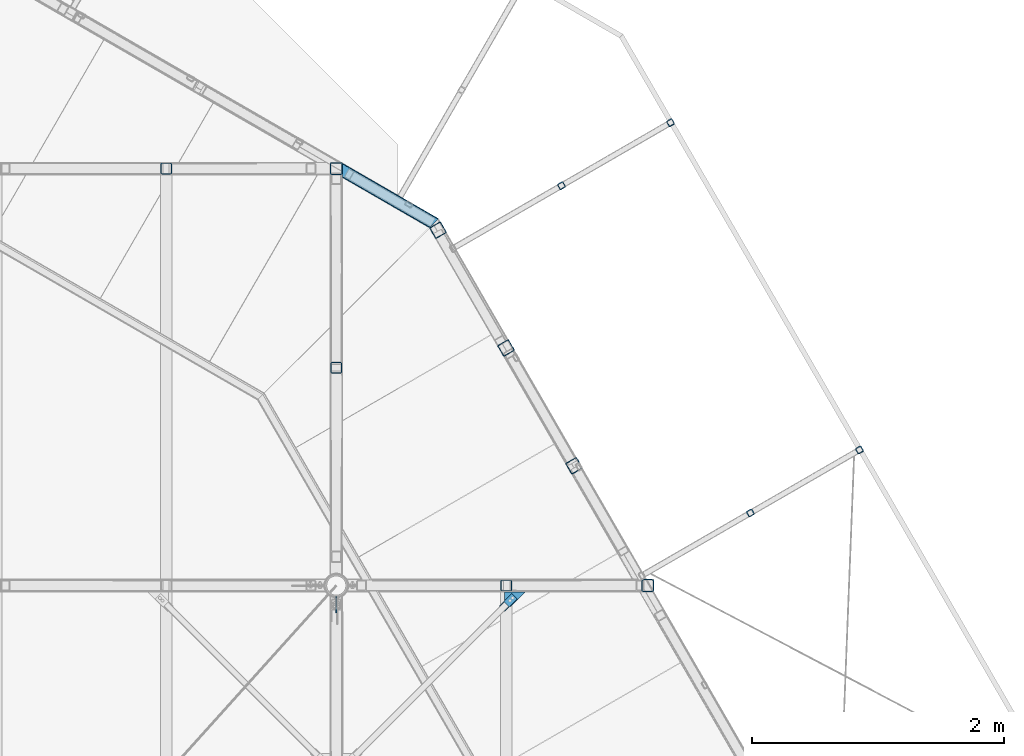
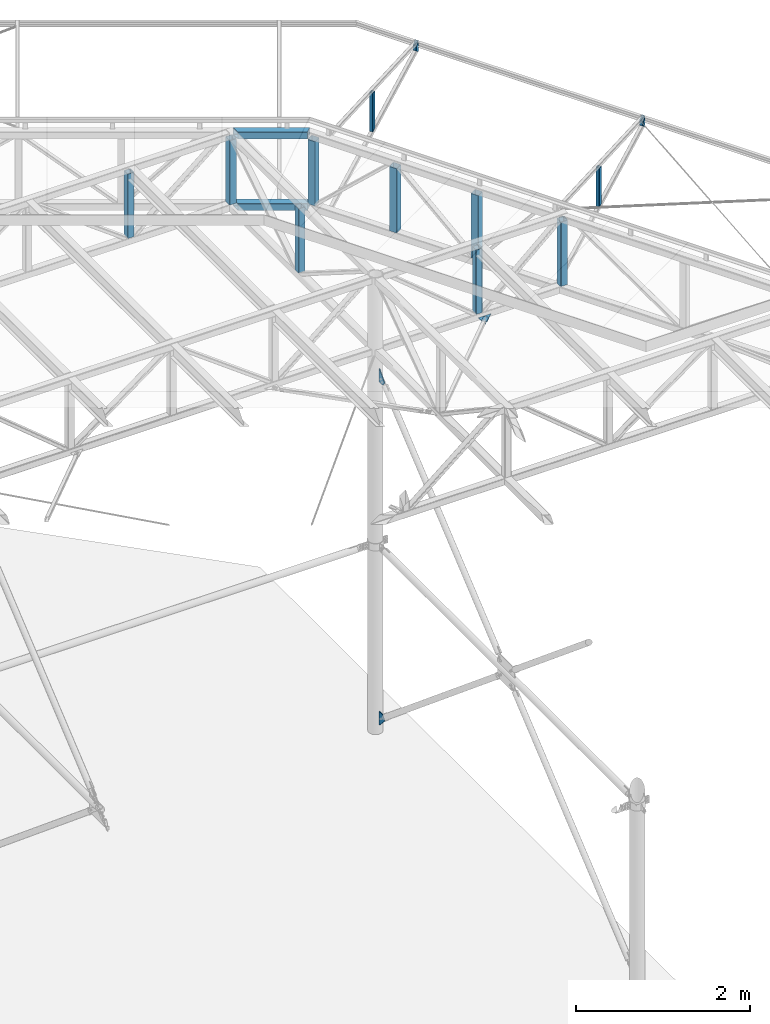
# One storey, part 93 of 132: 18 discrete accessories, 8 elements without a shape of their own.
"""IFC2X3 building model written with IfcOpenShell, lengths in millimetres."""

from ifc_helpers import new_model, si_unit, frame, origin_with_axes, origin_2d_with_axis, place, context, subcontext, project, spatial, polyline, hollow_rectangle, outline, extrude, clip, halfspace, material, type_object, element, aggregate, save


model = new_model("IFC2X3")

# Units and contexts
model_context = context("Model", 3, precision=1e-05, world=origin_with_axes())
body_context = subcontext(model_context, "Body", "Model", "MODEL_VIEW")
ifc_project = project(units=[si_unit("LENGTHUNIT", "METRE", prefix="MILLI"), si_unit("AREAUNIT", "SQUARE_METRE"), si_unit("VOLUMEUNIT", "CUBIC_METRE"), si_unit("MASSUNIT", "GRAM", prefix="KILO"), si_unit("TIMEUNIT", "SECOND"), si_unit("PLANEANGLEUNIT", "RADIAN"), si_unit("SOLIDANGLEUNIT", "STERADIAN"), si_unit("THERMODYNAMICTEMPERATUREUNIT", "DEGREE_CELSIUS"), si_unit("LUMINOUSINTENSITYUNIT", "LUMEN")], contexts=[model_context])

# Site, building, storey
site_placement = place(None, origin_with_axes())
site = spatial("IfcSite", under=ifc_project, at=site_placement, Name="Budowa", CompositionType="ELEMENT")
building_placement = place(site_placement, origin_with_axes())
building = spatial("IfcBuilding", under=site, at=building_placement, Name="Undefined", CompositionType="ELEMENT")
storey_placement = place(building_placement, origin_with_axes())
storey = spatial("IfcBuildingStorey", under=building, at=storey_placement, Name="Undefined", CompositionType="ELEMENT", Elevation=0.0)

# Assembly, discrete accessories
assembly_1_placement = place(storey_placement, origin_with_axes())
assembly_1 = element("IfcElementAssembly", 1, at=assembly_1_placement, inside=storey, Name="Steel Assembly", AssemblyPlace="NOTDEFINED", PredefinedType="RIGID_FRAME")
ifc_material = material(Name="STEEL/S235")
discrete_accessory_type_1 = type_object("IfcDiscreteAccessoryType", Name="BLACHA")
discrete_accessory_1_placement = place(assembly_1_placement, frame((20225.000002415, 17911.1000000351, 7622.99987030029), z_axis=(1.0, 0.0, 0.0), x_axis=(0.0, 0.0, 1.0)))
discrete_accessory_1 = element("IfcDiscreteAccessory", 2, at=discrete_accessory_1_placement, type_object=discrete_accessory_type_1, material=ifc_material, Name="BLACHA", ObjectType="BL8*126", context=body_context, shape_type="SweptSolid", body=[
    extrude(outline(polyline([(0.0, 0.0), (188.000686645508, 0.0), (188.000686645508, 75.9982376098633), (127.00080871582, 125.999382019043), (0.0, 10.0), (0.0, 0.0)])), frame((0.0, 0.0, -4.0), z_axis=(0.0, 0.0, 1.0), x_axis=(1.0, 0.0, 0.0)), (0.0, 0.0, 1.0), 8.0),
])
discrete_accessory_2_placement = place(assembly_1_placement, frame((20225.0000024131, 17911.1000000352, 12421.0002059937), z_axis=(1.0, 0.0, 0.0), x_axis=(0.0, 0.0, 1.0)))
discrete_accessory_2 = element("IfcDiscreteAccessory", 3, at=discrete_accessory_2_placement, type_object=discrete_accessory_type_1, material=ifc_material, Name="BLACHA", ObjectType="BL8*126", context=body_context, shape_type="SweptSolid", body=[
    extrude(outline(polyline([(0.0, 0.0), (187.999725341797, 0.0), (187.999725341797, 10.0), (60.999870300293, 125.999382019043), (5.18411980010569e-09, 75.9982376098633), (0.0, 0.0)])), frame((0.0, 0.0, -4.0), z_axis=(0.0, 0.0, 1.0), x_axis=(1.0, 0.0, 0.0)), (0.0, 0.0, 1.0), 8.0),
])
aggregate(assembly_1, [discrete_accessory_1, discrete_accessory_2])

# Assembly, discrete accessory
assembly_2_placement = place(storey_placement, origin_with_axes())
assembly_2 = element("IfcElementAssembly", 4, at=assembly_2_placement, inside=storey, Name="Steel Assembly", AssemblyPlace="NOTDEFINED", PredefinedType="RIGID_FRAME")
discrete_accessory_3_placement = place(assembly_2_placement, frame((21562.005048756, 17794.5786419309, 12830.0), z_axis=(0.0, 0.0, 1.0), x_axis=(0.707106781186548, 0.707106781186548, 0.0)))
discrete_accessory_3 = element("IfcDiscreteAccessory", 5, at=discrete_accessory_3_placement, type_object=discrete_accessory_type_1, material=ifc_material, Name="BLACHA", ObjectType="BL6*60", context=body_context, shape_type="SweptSolid", body=[
    extrude(outline(polyline([(0.0, 0.0), (139.99999999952, -6.2755134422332e-10), (139.99999999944, 59.9999999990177), (0.0, 60.0), (-8.00355337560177e-11, 54.9999999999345), (49.9999999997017, 54.9999999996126), (49.9999999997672, 4.99999999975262), (-8.73114913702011e-11, 5.00000000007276), (0.0, 0.0)])), frame((0.0, 0.0, -3.0), z_axis=(0.0, 0.0, 1.0), x_axis=(1.0, 0.0, 0.0)), (0.0, 0.0, 1.0), 6.0),
])
aggregate(assembly_2, [discrete_accessory_3])

assembly_3_placement = place(storey_placement, origin_with_axes())
assembly_3 = element("IfcElementAssembly", 6, at=assembly_3_placement, inside=storey, Name="Steel Assembly", AssemblyPlace="NOTDEFINED", PredefinedType="RIGID_FRAME")
discrete_accessory_4_placement = place(assembly_3_placement, frame((21724.4974746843, 17950.000000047, 12824.0), z_axis=(0.0, 0.0, 1.0), x_axis=(-1.0, 0.0, 0.0)))
discrete_accessory_4 = element("IfcDiscreteAccessory", 7, at=discrete_accessory_4_placement, type_object=discrete_accessory_type_1, material=ifc_material, Name="BLACHA", ObjectType="BL6*117", context=body_context, shape_type="SweptSolid", body=[
    extrude(outline(polyline([(0.0, 0.0), (166.027954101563, 0.0), (166.027954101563, 67.0330123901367), (116.530487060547, 116.530487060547), (0.0, 0.0)])), frame((0.0, 0.0, -3.0), z_axis=(0.0, 0.0, 1.0), x_axis=(1.0, 0.0, 0.0)), (0.0, 0.0, 1.0), 6.0),
])

# Assembly, discrete accessories
assembly_4_placement = place(storey_placement, origin_with_axes())
assembly_4 = element("IfcElementAssembly", 8, at=assembly_4_placement, inside=storey, Name="Steel Assembly", AssemblyPlace="NOTDEFINED", PredefinedType="RIGID_FRAME")
discrete_accessory_type_2 = type_object("IfcDiscreteAccessoryType", Name="BEAM")
discrete_accessory_5_placement = place(assembly_4_placement, frame((23512.5560294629, 18576.2821662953, 13878.94002838), z_axis=(-0.499969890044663, 0.866042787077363, 0.0), x_axis=(0.0, 0.0, -1.0)))
discrete_accessory_5 = element("IfcDiscreteAccessory", 9, at=discrete_accessory_5_placement, type_object=discrete_accessory_type_2, material=ifc_material, Name="BEAM", ObjectType="SHS50*4", context=body_context, shape_type="Clipping", body=[
    clip(clip(extrude(hollow_rectangle(XDim=50.0, YDim=50.0, WallThickness=4.0, InnerFilletRadius=4.0, OuterFilletRadius=8.0, at=origin_2d_with_axis()), frame((545.085010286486, 0.0, 0.0), z_axis=(-1.0, 0.0, 0.0), x_axis=(0.0, -1.0, 0.0)), (0.0, 0.0, 1.0), 559.36), halfspace(frame((536.667324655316, 11.6203888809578, 999.999999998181), z_axis=(-0.885407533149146, 0.464815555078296, 0.0), x_axis=(-0.464815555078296, -0.885407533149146, 0.0)), True)), halfspace(frame((0.185048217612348, -1.24844042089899, 999.999999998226), z_axis=(0.998752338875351, -0.0499376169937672, 0.0), x_axis=(0.0499376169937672, 0.998752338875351, 0.0)), True)),
])
discrete_accessory_6_placement = place(assembly_4_placement, frame((24378.5988165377, 19076.252056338, 13979.9998397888), z_axis=(-0.499969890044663, 0.866042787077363, 0.0), x_axis=(0.0, 0.0, -1.0)))
discrete_accessory_6 = element("IfcDiscreteAccessory", 10, at=discrete_accessory_6_placement, type_object=discrete_accessory_type_2, material=ifc_material, Name="BEAM", ObjectType="SHS50*4", context=body_context, shape_type="Clipping", body=[
    clip(clip(extrude(hollow_rectangle(XDim=50.0, YDim=50.0, WallThickness=4.0, InnerFilletRadius=4.0, OuterFilletRadius=8.0, at=origin_2d_with_axis()), frame((176.695154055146, 0.0, 0.0), z_axis=(-1.0, 0.0, 0.0), x_axis=(0.0, -1.0, 0.0)), (0.0, 0.0, 1.0), 192.23), halfspace(frame((149.999998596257, -25.0000000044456, 4.06544131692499e-09), z_axis=(0.855808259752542, 0.517293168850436, 0.0), x_axis=(0.0, 0.0, 1.0)), False)), halfspace(frame((-0.00517941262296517, -25.0000000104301, 1.04982973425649e-08), z_axis=(-0.689225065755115, 0.724547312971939, 0.0), x_axis=(0.0, 0.0, -1.0)), False)),
])
aggregate(assembly_4, [discrete_accessory_5, discrete_accessory_6])

assembly_5_placement = place(storey_placement, origin_with_axes())
assembly_5 = element("IfcElementAssembly", 11, at=assembly_5_placement, inside=storey, Name="Steel Assembly", AssemblyPlace="NOTDEFINED", PredefinedType="RIGID_FRAME")
discrete_accessory_7_placement = place(assembly_5_placement, frame((22012.5957528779, 21174.381311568, 13878.94002838), z_axis=(-0.499969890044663, 0.866042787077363, 0.0), x_axis=(0.0, 0.0, -1.0)))
discrete_accessory_7 = element("IfcDiscreteAccessory", 12, at=discrete_accessory_7_placement, type_object=discrete_accessory_type_2, material=ifc_material, Name="BEAM", ObjectType="SHS50*4", context=body_context, shape_type="Clipping", body=[
    clip(clip(extrude(hollow_rectangle(XDim=50.0, YDim=50.0, WallThickness=4.0, InnerFilletRadius=4.0, OuterFilletRadius=8.0, at=origin_2d_with_axis()), frame((545.085010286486, 0.0, 0.0), z_axis=(-1.0, 0.0, 0.0), x_axis=(0.0, -1.0, 0.0)), (0.0, 0.0, 1.0), 559.36), halfspace(frame((536.667324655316, 11.6203888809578, 999.999999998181), z_axis=(-0.885407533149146, 0.464815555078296, 0.0), x_axis=(-0.464815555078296, -0.885407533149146, 0.0)), True)), halfspace(frame((0.185048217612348, -1.24844042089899, 999.999999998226), z_axis=(0.998752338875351, -0.0499376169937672, 0.0), x_axis=(0.0499376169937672, 0.998752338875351, 0.0)), True)),
])
discrete_accessory_8_placement = place(assembly_5_placement, frame((22878.6385399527, 21674.3512016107, 13979.9998397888), z_axis=(-0.499969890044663, 0.866042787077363, 0.0), x_axis=(0.0, 0.0, -1.0)))
discrete_accessory_8 = element("IfcDiscreteAccessory", 13, at=discrete_accessory_8_placement, type_object=discrete_accessory_type_2, material=ifc_material, Name="BEAM", ObjectType="SHS50*4", context=body_context, shape_type="Clipping", body=[
    clip(clip(extrude(hollow_rectangle(XDim=50.0, YDim=50.0, WallThickness=4.0, InnerFilletRadius=4.0, OuterFilletRadius=8.0, at=origin_2d_with_axis()), frame((176.695154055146, 0.0, 0.0), z_axis=(-1.0, 0.0, 0.0), x_axis=(0.0, -1.0, 0.0)), (0.0, 0.0, 1.0), 192.23), halfspace(frame((149.999998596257, -25.0000000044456, 4.06544131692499e-09), z_axis=(0.855808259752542, 0.517293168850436, 0.0), x_axis=(0.0, 0.0, 1.0)), False)), halfspace(frame((-0.00517941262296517, -25.0000000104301, 1.04982973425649e-08), z_axis=(-0.689225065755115, 0.724547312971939, 0.0), x_axis=(0.0, 0.0, -1.0)), False)),
])
aggregate(assembly_5, [discrete_accessory_7, discrete_accessory_8])

assembly_6_placement = place(storey_placement, origin_with_axes())
assembly_6 = element("IfcElementAssembly", 14, at=assembly_6_placement, inside=storey, Name="Steel Assembly", AssemblyPlace="NOTDEFINED", PredefinedType="RIGID_FRAME")
discrete_accessory_9_placement = place(assembly_6_placement, frame((22112.8166863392, 18950.5947738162, 12879.9999999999), z_axis=(0.0, 0.0, 1.0), x_axis=(0.866025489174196, 0.499999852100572, 0.0)))
discrete_accessory_9 = element("IfcDiscreteAccessory", 15, at=discrete_accessory_9_placement, type_object=discrete_accessory_type_2, material=ifc_material, Name="BEAM", ObjectType="SHS100*4", context=body_context, shape_type="Clipping", body=[
    clip(clip(extrude(hollow_rectangle(XDim=100.0, YDim=100.0, WallThickness=4.0, InnerFilletRadius=4.0, OuterFilletRadius=8.0, at=origin_2d_with_axis()), frame((0.0, 0.0, 900.0), z_axis=(0.0, 0.0, -1.0), x_axis=(0.0, 1.0, 0.0)), (0.0, 0.0, 1.0), 900.0), halfspace(frame((1000.0, 0.0, 900.0), z_axis=(0.0, 0.0, -1.0), x_axis=(0.0, 1.0, 0.0)), True)), halfspace(frame((1000.0, 0.0, 0.0), z_axis=(0.0, 0.0, 1.0), x_axis=(0.0, -1.0, 0.0)), True)),
])
discrete_accessory_10_placement = place(assembly_6_placement, frame((21572.8166315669, 19885.9021782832, 12879.9999999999), z_axis=(0.0, 0.0, 1.0), x_axis=(0.866025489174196, 0.499999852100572, 0.0)))
discrete_accessory_10 = element("IfcDiscreteAccessory", 16, at=discrete_accessory_10_placement, type_object=discrete_accessory_type_2, material=ifc_material, Name="BEAM", ObjectType="SHS100*4", context=body_context, shape_type="Clipping", body=[
    clip(clip(extrude(hollow_rectangle(XDim=100.0, YDim=100.0, WallThickness=4.0, InnerFilletRadius=4.0, OuterFilletRadius=8.0, at=origin_2d_with_axis()), frame((0.0, 0.0, 900.0), z_axis=(0.0, 0.0, -1.0), x_axis=(0.0, 1.0, 0.0)), (0.0, 0.0, 1.0), 900.0), halfspace(frame((1000.0, 0.0, 900.0), z_axis=(0.0, 0.0, -1.0), x_axis=(0.0, 1.0, 0.0)), True)), halfspace(frame((1000.0, 0.0, 0.0), z_axis=(0.0, 0.0, 1.0), x_axis=(0.0, -1.0, 0.0)), True)),
])
discrete_accessory_11_placement = place(assembly_6_placement, frame((21032.8165767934, 20821.2095827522, 12879.9999999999), z_axis=(0.0, 0.0, 1.0), x_axis=(0.866025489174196, 0.499999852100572, 0.0)))
discrete_accessory_11 = element("IfcDiscreteAccessory", 17, at=discrete_accessory_11_placement, type_object=discrete_accessory_type_2, material=ifc_material, Name="BEAM", ObjectType="SHS100*4", context=body_context, shape_type="Clipping", body=[
    clip(clip(extrude(hollow_rectangle(XDim=100.0, YDim=100.0, WallThickness=4.0, InnerFilletRadius=4.0, OuterFilletRadius=8.0, at=origin_2d_with_axis()), frame((0.0, 0.0, 900.0), z_axis=(0.0, 0.0, -1.0), x_axis=(0.0, 1.0, 0.0)), (0.0, 0.0, 1.0), 900.0), halfspace(frame((1000.0, 0.0, 900.0), z_axis=(0.0, 0.0, -1.0), x_axis=(0.0, 1.0, 0.0)), True)), halfspace(frame((1000.0, 0.0, 0.0), z_axis=(0.0, 0.0, 1.0), x_axis=(0.0, -1.0, 0.0)), True)),
])
discrete_accessory_12_placement = place(assembly_6_placement, frame((20246.9871952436, 21311.4765029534, 12830.0), z_axis=(0.0, 0.0, 1.0), x_axis=(0.866042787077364, -0.499969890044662, 0.0)))
discrete_accessory_12 = element("IfcDiscreteAccessory", 18, at=discrete_accessory_12_placement, type_object=discrete_accessory_type_2, material=ifc_material, Name="BEAM", ObjectType="SHS100*5", context=body_context, shape_type="Clipping", body=[
    clip(clip(extrude(hollow_rectangle(XDim=100.0, YDim=100.0, WallThickness=5.0, InnerFilletRadius=5.0, OuterFilletRadius=10.0, at=origin_2d_with_axis()), frame((950.430426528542, 0.0, 0.0), z_axis=(-1.0, 0.0, 0.0), x_axis=(0.0, -1.0, 0.0)), (0.0, 0.0, 1.0), 950.43), halfspace(frame((3.48055581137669, 50.0000000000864, -50.0), z_axis=(-0.866042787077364, -0.499969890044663, 0.0), x_axis=(0.0, 0.0, 1.0)), False)), halfspace(frame((857.378660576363, -50.00000000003, 0.0), z_axis=(0.965921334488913, -0.258835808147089, 0.0), x_axis=(0.0, 0.0, 1.0)), False)),
])
discrete_accessory_13_placement = place(assembly_6_placement, frame((20246.9871952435, 21311.4765029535, 13830.0), z_axis=(0.0, 0.0, 1.0), x_axis=(0.866042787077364, -0.499969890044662, 0.0)))
discrete_accessory_13 = element("IfcDiscreteAccessory", 19, at=discrete_accessory_13_placement, type_object=discrete_accessory_type_2, material=ifc_material, Name="BEAM", ObjectType="SHS100*5", context=body_context, shape_type="Clipping", body=[
    clip(clip(extrude(hollow_rectangle(XDim=100.0, YDim=100.0, WallThickness=5.0, InnerFilletRadius=5.0, OuterFilletRadius=10.0, at=origin_2d_with_axis()), frame((950.430426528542, 0.0, 0.0), z_axis=(-1.0, 0.0, 0.0), x_axis=(0.0, -1.0, 0.0)), (0.0, 0.0, 1.0), 950.43), halfspace(frame((3.48055581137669, 50.0000000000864, -50.0), z_axis=(-0.866042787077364, -0.499969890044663, 0.0), x_axis=(0.0, 0.0, 1.0)), False)), halfspace(frame((857.378660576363, -50.00000000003, 0.0), z_axis=(0.965921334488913, -0.258835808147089, 0.0), x_axis=(0.0, 0.0, 1.0)), False)),
])
aggregate(assembly_6, [discrete_accessory_9, discrete_accessory_10, discrete_accessory_11, discrete_accessory_12, discrete_accessory_13])

# Discrete accessory
discrete_accessory_14_placement = place(assembly_3_placement, frame((21573.9, 18000.000000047, 13780.0), z_axis=(-1.0, 0.0, 0.0), x_axis=(0.0, 0.0, -1.0)))
discrete_accessory_14 = element("IfcDiscreteAccessory", 20, at=discrete_accessory_14_placement, type_object=discrete_accessory_type_2, material=ifc_material, Name="BEAM", ObjectType="SHS90*6", context=body_context, shape_type="Clipping", body=[
    clip(clip(extrude(hollow_rectangle(XDim=90.0, YDim=90.0, WallThickness=6.0, InnerFilletRadius=6.0, OuterFilletRadius=12.0, at=origin_2d_with_axis()), frame((900.0, 0.0, 0.0), z_axis=(-1.0, 0.0, 0.0), x_axis=(0.0, -1.0, 0.0)), (0.0, 0.0, 1.0), 900.0), halfspace(frame((900.0, 0.0, 1000.0), z_axis=(-1.0, 0.0, 0.0), x_axis=(0.0, -1.0, 0.0)), True)), halfspace(frame((0.0, 0.0, 1000.0), z_axis=(1.0, 0.0, 0.0), x_axis=(0.0, 1.0, 0.0)), True)),
])

discrete_accessory_15_placement = place(assembly_3_placement, frame((22697.9, 18000.000000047, 13780.0), z_axis=(-1.0, 0.0, 0.0), x_axis=(0.0, 0.0, -1.0)))
discrete_accessory_15 = element("IfcDiscreteAccessory", 21, at=discrete_accessory_15_placement, type_object=discrete_accessory_type_2, material=ifc_material, Name="BEAM", ObjectType="SHS100*8", context=body_context, shape_type="Clipping", body=[
    clip(clip(extrude(hollow_rectangle(XDim=100.0, YDim=100.0, WallThickness=8.0, InnerFilletRadius=8.0, OuterFilletRadius=16.0, at=origin_2d_with_axis()), frame((900.0, 0.0, 0.0), z_axis=(-1.0, 0.0, 0.0), x_axis=(0.0, -1.0, 0.0)), (0.0, 0.0, 1.0), 900.0), halfspace(frame((900.0, 0.0, 1000.0), z_axis=(-1.0, 0.0, 0.0), x_axis=(0.0, -1.0, 0.0)), True)), halfspace(frame((0.0, 0.0, 1000.0), z_axis=(1.0, 0.0, 0.0), x_axis=(0.0, 1.0, 0.0)), True)),
])

aggregate(assembly_3, [discrete_accessory_4, discrete_accessory_14, discrete_accessory_15])

# Assembly, discrete accessory
assembly_7_placement = place(storey_placement, origin_with_axes())
assembly_7 = element("IfcElementAssembly", 22, at=assembly_7_placement, inside=storey, Name="Steel Assembly", AssemblyPlace="NOTDEFINED", PredefinedType="RIGID_FRAME")
discrete_accessory_16_placement = place(assembly_7_placement, frame((18874.9999999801, 21310.000000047, 13780.0), z_axis=(0.0, -1.0, 0.0), x_axis=(0.0, 0.0, -1.0)))
discrete_accessory_16 = element("IfcDiscreteAccessory", 23, at=discrete_accessory_16_placement, type_object=discrete_accessory_type_2, material=ifc_material, Name="BEAM", ObjectType="SHS90*6", context=body_context, shape_type="Clipping", body=[
    clip(clip(extrude(hollow_rectangle(XDim=90.0, YDim=90.0, WallThickness=6.0, InnerFilletRadius=6.0, OuterFilletRadius=12.0, at=origin_2d_with_axis()), frame((900.0, 0.0, 0.0), z_axis=(-1.0, 0.0, 0.0), x_axis=(0.0, -1.0, 0.0)), (0.0, 0.0, 1.0), 900.0), halfspace(frame((900.0, 0.0, 1000.0), z_axis=(-1.0, 0.0, 0.0), x_axis=(0.0, -1.0, 0.0)), True)), halfspace(frame((0.0, 0.0, 1000.0), z_axis=(1.0, 0.0, 0.0), x_axis=(0.0, 1.0, 0.0)), True)),
])
aggregate(assembly_7, [discrete_accessory_16])

# Assembly, discrete accessories
assembly_8_placement = place(storey_placement, origin_with_axes())
assembly_8 = element("IfcElementAssembly", 24, at=assembly_8_placement, inside=storey, Name="Steel Assembly", AssemblyPlace="NOTDEFINED", PredefinedType="RIGID_FRAME")
discrete_accessory_17_placement = place(assembly_8_placement, frame((20225.0000000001, 19728.9000000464, 13780.0000000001), z_axis=(1.0, 0.0, 0.0), x_axis=(0.0, 0.0, -1.0)))
discrete_accessory_17 = element("IfcDiscreteAccessory", 25, at=discrete_accessory_17_placement, type_object=discrete_accessory_type_2, material=ifc_material, Name="BEAM", ObjectType="SHS90*6", context=body_context, shape_type="Clipping", body=[
    clip(clip(extrude(hollow_rectangle(XDim=90.0, YDim=90.0, WallThickness=6.0, InnerFilletRadius=6.0, OuterFilletRadius=12.0, at=origin_2d_with_axis()), frame((900.0, 0.0, 0.0), z_axis=(-1.0, 0.0, 0.0), x_axis=(0.0, -1.0, 0.0)), (0.0, 0.0, 1.0), 900.0), halfspace(frame((900.0, 0.0, 1000.0), z_axis=(-1.0, 0.0, 0.0), x_axis=(0.0, -1.0, 0.0)), True)), halfspace(frame((0.0, 0.0, 1000.0), z_axis=(1.0, 0.0, 0.0), x_axis=(0.0, 1.0, 0.0)), True)),
])
discrete_accessory_18_placement = place(assembly_8_placement, frame((20225.0000000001, 21310.0000000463, 13780.0000000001), z_axis=(1.0, 0.0, 0.0), x_axis=(0.0, 0.0, -1.0)))
discrete_accessory_18 = element("IfcDiscreteAccessory", 26, at=discrete_accessory_18_placement, type_object=discrete_accessory_type_2, material=ifc_material, Name="BEAM", ObjectType="SHS100*8", context=body_context, shape_type="Clipping", body=[
    clip(clip(extrude(hollow_rectangle(XDim=100.0, YDim=100.0, WallThickness=8.0, InnerFilletRadius=8.0, OuterFilletRadius=16.0, at=origin_2d_with_axis()), frame((900.0, 0.0, 0.0), z_axis=(-1.0, 0.0, 0.0), x_axis=(0.0, -1.0, 0.0)), (0.0, 0.0, 1.0), 900.0), halfspace(frame((900.0, 0.0, 1000.0), z_axis=(-1.0, 0.0, 0.0), x_axis=(0.0, -1.0, 0.0)), True)), halfspace(frame((0.0, 0.0, 1000.0), z_axis=(1.0, 0.0, 0.0), x_axis=(0.0, 1.0, 0.0)), True)),
])
aggregate(assembly_8, [discrete_accessory_17, discrete_accessory_18])

save(model, "model.ifc")
